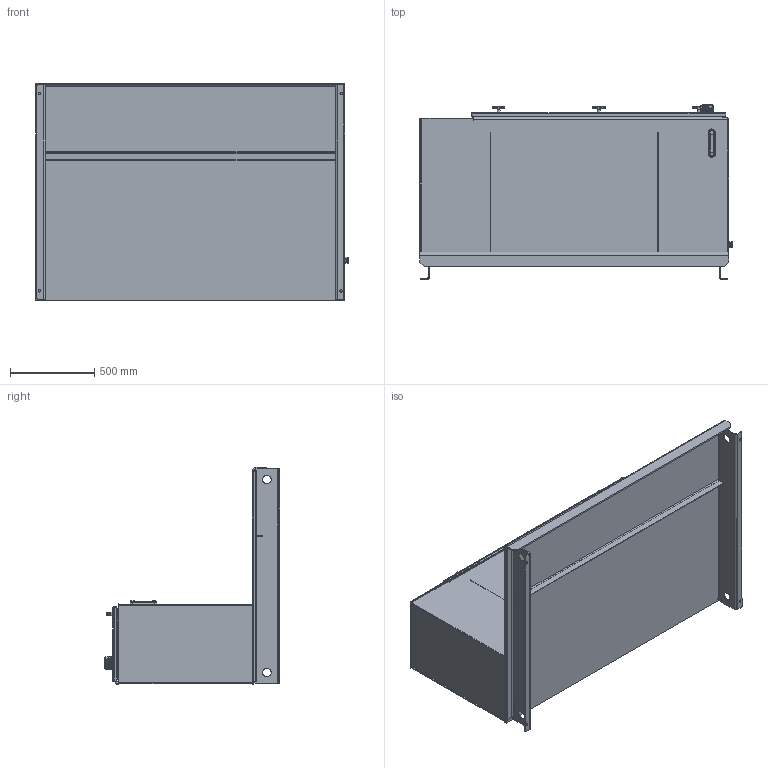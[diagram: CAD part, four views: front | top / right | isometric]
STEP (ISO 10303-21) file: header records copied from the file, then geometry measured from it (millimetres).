
FILE_DESCRIPTION (( 'STEP AP203' ), '1' );
FILE_NAME ('RLP150-PHT.STEP', '2015-01-07T19:07:10', ( '' ), ( '' ), 'SwSTEP 2.0', 'SolidWorks 2014', '' );
FILE_SCHEMA (( 'CONFIG_CONTROL_DESIGN' ));
Products named in the file (1): RLP150-PHT
Bounding box: 1847.85 x 1038.29 x 1287.37 mm (x, y, z)
Volume: 50680731.4 mm3; surface area: 17621923.6 mm2
Topology: 62 solids, 240 shells, 3187 faces, 7023 edges, 4269 vertices
Faces by surface type: plane 1332, cylinder 1154, torus 410, bspline 136, cone 100, sphere 55
Entity records: 95633 total; most frequent: CARTESIAN_POINT 24903, DIRECTION 15614, ORIENTED_EDGE 13926, EDGE_CURVE 6963, AXIS2_PLACEMENT_3D 6068, VERTEX_POINT 4251, VECTOR 3478, LINE 3478
